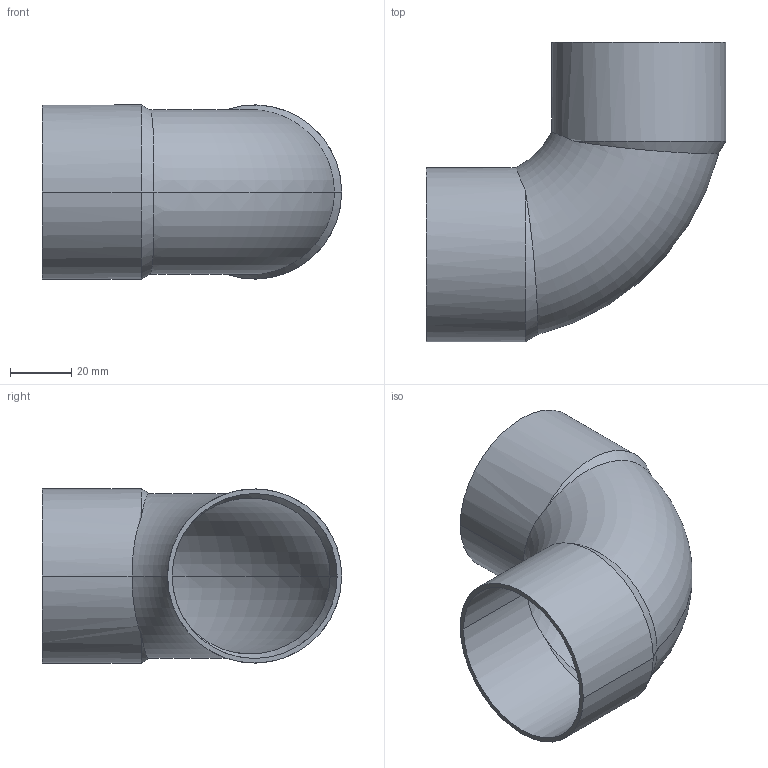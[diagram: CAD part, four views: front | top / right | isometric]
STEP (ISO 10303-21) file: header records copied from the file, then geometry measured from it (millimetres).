
FILE_DESCRIPTION((''),'2;1');
FILE_NAME('G:\SANHA-TERNAT\Technik\Deckel\UUU\Producttek\1509054\1509054(0).stp','2007-07-25T14:04:35',('vdvijverd'),(''),'Autodesk Inventor 8','Autodesk Inventor 8','');
FILE_SCHEMA(('AUTOMOTIVE_DESIGN { 1 0 10303 214 1 1 1 1 }'));
Length unit declared in the file: millimetre
Products named in the file (1): 1509054(0)
Bounding box: 98 x 98 x 57 mm (x, y, z)
Volume: 30357.9 mm3; surface area: 41011.1 mm2
Topology: 1 solids, 1 shells, 22 faces, 53 edges, 33 vertices
Faces by surface type: bspline 9, torus 4, cone 4, cylinder 4, plane 1
Entity records: 917 total; most frequent: CARTESIAN_POINT 432, ORIENTED_EDGE 106, DIRECTION 82, EDGE_CURVE 53, AXIS2_PLACEMENT_3D 35, VERTEX_POINT 33, EDGE_LOOP 24, FACE_OUTER_BOUND 22
